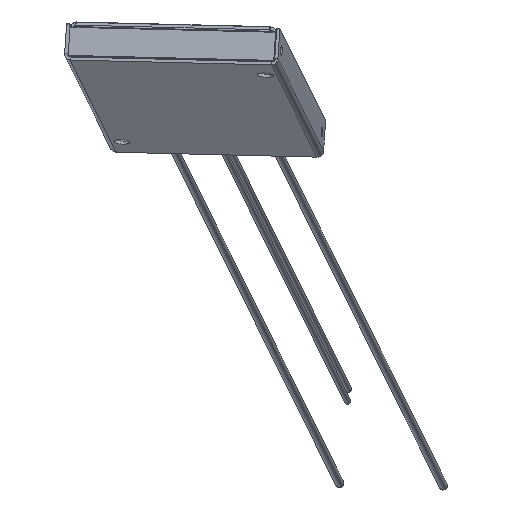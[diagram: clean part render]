
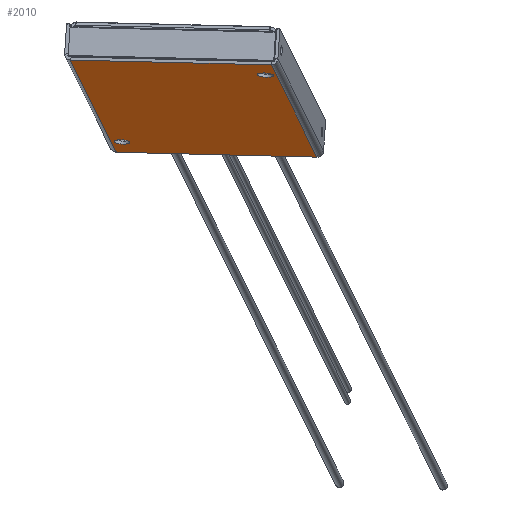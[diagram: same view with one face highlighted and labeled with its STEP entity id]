
A CAD part, left-side view. The second image highlights one B-rep face of the part: STEP entity #2010.
In plain terms, the highlighted planar face has unit normal (-0.27, 0.064, -0.961).
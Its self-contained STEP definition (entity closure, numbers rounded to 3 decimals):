
#112=LINE($,#3141,#283);
#114=LINE($,#3144,#285);
#130=LINE($,#3178,#301);
#131=LINE($,#3180,#302);
#283=VECTOR($,#2572,105.);
#285=VECTOR($,#2576,64.);
#301=VECTOR($,#2610,105.);
#302=VECTOR($,#2613,64.);
#409=PLANE($,#2185);
#477=FACE_BOUND($,#695,.T.);
#478=FACE_BOUND($,#696,.T.);
#479=FACE_BOUND($,#697,.T.);
#695=EDGE_LOOP($,(#1550));
#696=EDGE_LOOP($,(#1551));
#697=EDGE_LOOP($,(#1552,#1553,#1554,#1555));
#804=CIRCLE($,#2157,2.5);
#806=CIRCLE($,#2160,2.5);
#911=VERTEX_POINT($,#3030);
#936=VERTEX_POINT($,#3094);
#938=VERTEX_POINT($,#3099);
#948=VERTEX_POINT($,#3126);
#949=VERTEX_POINT($,#3130);
#958=VERTEX_POINT($,#3168);
#1128=EDGE_CURVE($,#936,#936,#804,.T.);
#1130=EDGE_CURVE($,#938,#938,#806,.T.);
#1150=EDGE_CURVE($,#948,#949,#112,.T.);
#1152=EDGE_CURVE($,#911,#949,#114,.T.);
#1171=EDGE_CURVE($,#911,#958,#130,.T.);
#1172=EDGE_CURVE($,#948,#958,#131,.T.);
#1550=ORIENTED_EDGE($,*,*,#1128,.T.);
#1551=ORIENTED_EDGE($,*,*,#1130,.T.);
#1552=ORIENTED_EDGE($,*,*,#1150,.T.);
#1553=ORIENTED_EDGE($,*,*,#1152,.F.);
#1554=ORIENTED_EDGE($,*,*,#1171,.T.);
#1555=ORIENTED_EDGE($,*,*,#1172,.F.);
#2010=ADVANCED_FACE($,(#477,#478,#479),#409,.T.);
#2157=AXIS2_PLACEMENT_3D($,#3095,#2523,#2524);
#2160=AXIS2_PLACEMENT_3D($,#3100,#2529,#2530);
#2185=AXIS2_PLACEMENT_3D($,#3181,#2614,#2615);
#2523=DIRECTION('center_axis',(0.27,-0.064,0.961));
#2524=DIRECTION('ref_axis',(-0.951,0.137,0.277));
#2529=DIRECTION('center_axis',(0.27,-0.064,0.961));
#2530=DIRECTION('ref_axis',(-0.951,0.137,0.277));
#2572=DIRECTION($,(-0.951,0.137,0.277));
#2576=DIRECTION($,(-0.149,-0.988,-0.024));
#2610=DIRECTION($,(0.951,-0.137,-0.277));
#2613=DIRECTION($,(0.149,0.988,0.024));
#2614=DIRECTION('center_axis',(-0.27,0.064,-0.961));
#2615=DIRECTION('ref_axis',(-0.951,0.137,0.277));
#3030=CARTESIAN_POINT('',(-117.961,10.532,-40.703));
#3094=CARTESIAN_POINT('',(-32.41,-5.338,-65.836));
#3095=CARTESIAN_POINT('Origin',(-30.033,-5.681,-66.528));
#3099=CARTESIAN_POINT('',(-117.969,-50.574,-44.778));
#3100=CARTESIAN_POINT('Origin',(-115.591,-50.917,-45.47));
#3126=CARTESIAN_POINT('',(-27.663,-67.13,-71.295));
#3130=CARTESIAN_POINT('',(-127.527,-52.731,-42.232));
#3141=CARTESIAN_POINT($,(-102.561,-56.331,-49.498));
#3144=CARTESIAN_POINT($,(-117.662,12.509,-40.655));
#3168=CARTESIAN_POINT('',(-18.096,-3.867,-69.766));
#3178=CARTESIAN_POINT($,(-43.063,-0.267,-62.5));
#3180=CARTESIAN_POINT($,(-27.962,-69.107,-71.343));
#3181=CARTESIAN_POINT('Origin',(-72.812,-28.299,-55.999));
